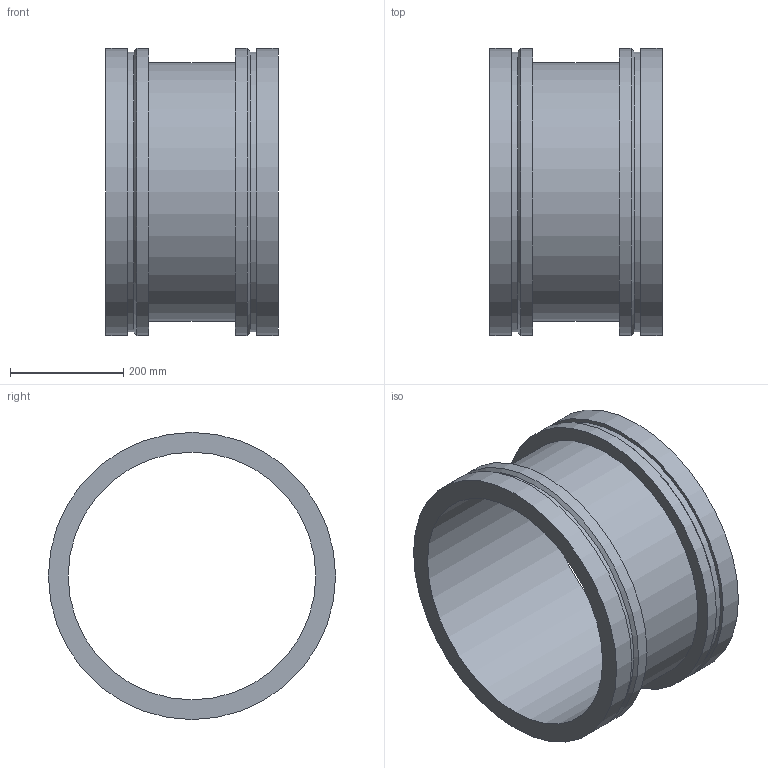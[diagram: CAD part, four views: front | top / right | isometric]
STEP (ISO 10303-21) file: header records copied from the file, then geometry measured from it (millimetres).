
FILE_DESCRIPTION(/* description */ ('VIC ADAPTER NIPPLE No W43 VR','CAx-IF Rec.Pracs.---Representation and Presentation of Product Manufacturing Information (PMI)---4.0---2014-10-13'),/* implementation_level */ '2;1');
FILE_NAME(/* name */ 'C:\Users\kkamble\AppData\Roaming\Autodesk\ApplicationPlugins\Back Up\Victaulic_Vic-Ring_Adapter Nipple_No W43 VR (AGR)\Victaulic_Vic-Ring_Adapter Nipple_No W43 VR (AGR)_18 (450).stp',/* time_stamp */ '2020-09-10T11:31:09+05:00',/* author */ ('cps_temp'),/* organization */ ('Victaulic'),/* preprocessor_version */ 'ST-DEVELOPER v17.2',/* originating_system */ 'Autodesk Inventor 2019',/* authorisation */ '');
FILE_SCHEMA (('AP242_MANAGED_MODEL_BASED_3D_ENGINEERING_MIM_LF { 1 0 10303 442 1 1 4 }'));
Length unit declared in the file: inch
Products named in the file (1): W43 VR-18.0
Bounding box: 304.8 x 508 x 508 mm (x, y, z)
Volume: 9667153.2 mm3; surface area: 1090715.5 mm2
Topology: 1 solids, 1 shells, 16 faces, 42 edges, 32 vertices
Faces by surface type: cylinder 8, plane 6, cone 2
Full cylindrical faces by diameter (mm): 438.15 x1, 457.2 x1, 495.3 x2, 508 x4
Entity records: 686 total; most frequent: DIRECTION 134, CARTESIAN_POINT 108, ORIENTED_EDGE 84, AXIS2_PLACEMENT_3D 62, EDGE_CURVE 42, CIRCLE 32, VERTEX_POINT 32, EDGE_LOOP 22
